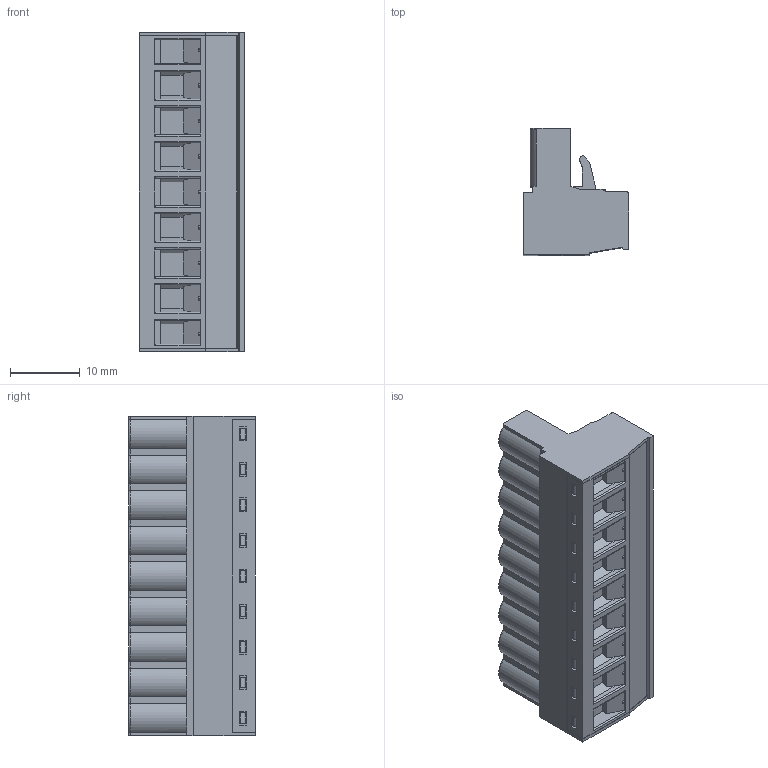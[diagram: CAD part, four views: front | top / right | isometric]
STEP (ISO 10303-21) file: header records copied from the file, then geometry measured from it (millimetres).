
FILE_DESCRIPTION (( 'STEP AP203' ), '1' );
FILE_NAME ('BR8F1-09.STEP', '2020-03-04T01:42:14', ( '' ), ( '' ), 'SwSTEP 2.0', 'SolidWorks 2019', '' );
FILE_SCHEMA (( 'CONFIG_CONTROL_DESIGN' ));
Length unit declared in the file: millimetre
Products named in the file (1): BR8F1-09
Bounding box: 15.05 x 18.1 x 45.72 mm (x, y, z)
Volume: 7277.8 mm3; surface area: 6159.9 mm2
Topology: 1 solids, 1 shells, 1189 faces, 3167 edges, 2034 vertices
Faces by surface type: plane 737, cylinder 290, cone 72, torus 54, sphere 36
Entity records: 37558 total; most frequent: CARTESIAN_POINT 7567, ORIENTED_EDGE 6334, DIRECTION 6079, EDGE_CURVE 3167, VECTOR 2307, LINE 2307, VERTEX_POINT 2034, AXIS2_PLACEMENT_3D 1886
